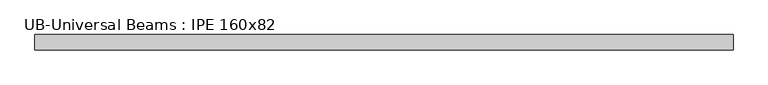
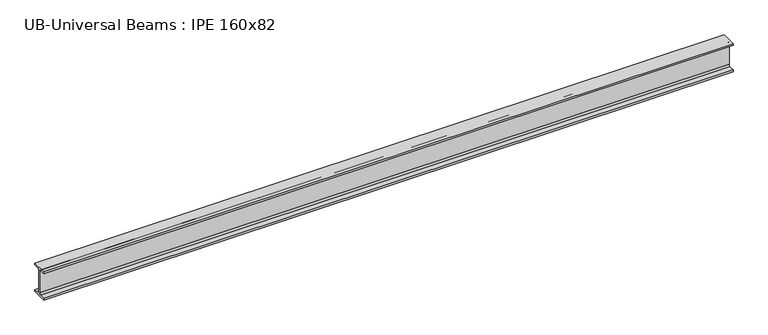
"""IFC4 building model written with IfcOpenShell, lengths in millimetres: beam geometry, UB-Universal Beams : IPE 160x82."""

from ifc_helpers import new_model, si_unit, point, frame, frame_2d, origin, place, context, project, spatial, polyline, circle_curve, trimmed, segment, composite_curve, outline, extrude, source, transform, mapped, element, save


def ub_universal_beams_ipe_160x82_a08825f7(model_context):
    return source(origin(), model_context, "Body", "SweptSolid", [
        extrude(outline(composite_curve([segment(polyline([(-41.0, -69.8), (-11.9, -69.8)]), True, "CONTINUOUS"), segment(trimmed(circle_curve(frame_2d((-11.9, -60.9)), 8.9), [point((-11.9, -69.8))], [point((-3.0, -60.9))], True, "CARTESIAN"), True, "CONTINUOUS"), segment(polyline([(-3.0, -60.9), (-3.0, 60.9)]), True, "CONTINUOUS"), segment(trimmed(circle_curve(frame_2d((-11.9, 60.9)), 8.9), [point((-3.0, 60.9))], [point((-11.9, 69.8))], True, "CARTESIAN"), True, "CONTINUOUS"), segment(polyline([(-11.9, 69.8), (-41.0, 69.8), (-41.0, 80.0), (41.0, 80.0), (41.0, 69.8), (11.9, 69.8)]), True, "CONTINUOUS"), segment(trimmed(circle_curve(frame_2d((11.9, 60.9)), 8.9), [point((11.9, 69.8))], [point((3.0, 60.9))], True, "CARTESIAN"), True, "CONTINUOUS"), segment(polyline([(3.0, 60.9), (3.0, -60.9)]), True, "CONTINUOUS"), segment(trimmed(circle_curve(frame_2d((11.9, -60.9)), 8.9), [point((3.0, -60.9))], [point((11.9, -69.8))], True, "CARTESIAN"), True, "CONTINUOUS"), segment(polyline([(11.9, -69.8), (41.0, -69.8), (41.0, -80.0), (-41.0, -80.0), (-41.0, -69.8)]), True, "CONTINUOUS")], self_intersect=False)), frame((-1890.05, 0.0, 0.0), z_axis=(1.0, 0.0, 0.0), x_axis=(0.0, 1.0, 0.0)), (0.0, 0.0, 1.0), 3709.2),
    ])


if __name__ == "__main__":
    model = new_model("IFC4")
    model_context = context("Model", 3, world=origin())
    ifc_project = project(units=[si_unit("LENGTHUNIT", "METRE", prefix="MILLI")], contexts=[model_context])
    site = spatial("IfcSite", under=ifc_project)
    building = spatial("IfcBuilding", under=site)
    placement = place(None, origin())
    ub_universal_beams_ipe_160x82_shape = ub_universal_beams_ipe_160x82_a08825f7(model_context)
    element("IfcBeam", 1, ObjectType="UB-Universal Beams : IPE 160x82", at=placement, inside=building, context=model_context, shape_type="MappedRepresentation", body=[
        mapped(ub_universal_beams_ipe_160x82_shape, transform((0.0, 0.0, 0.0), x_axis=(1.0, 0.0, 0.0), y_axis=(0.0, 1.0, 0.0), z_axis=(0.0, 0.0, 1.0))),
    ])
    save(model, "model.ifc")
